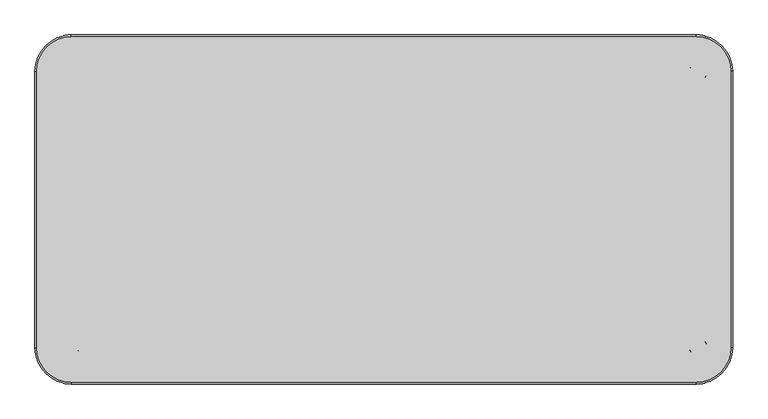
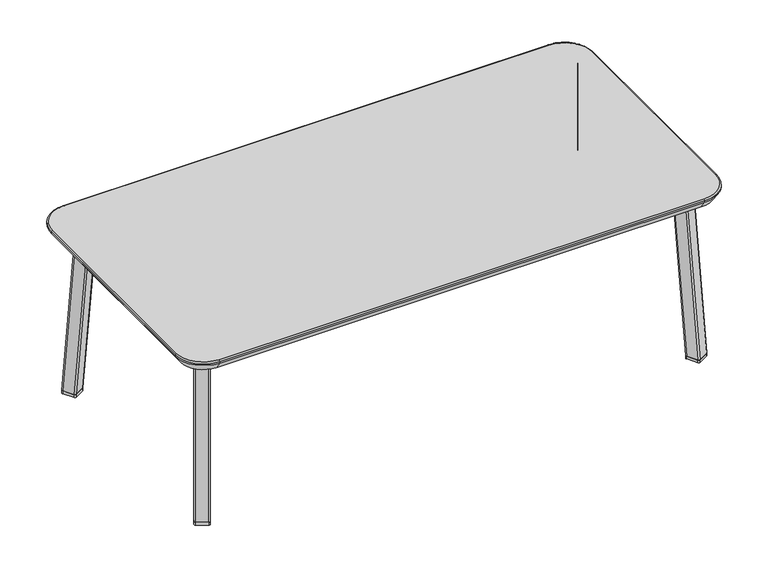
"""IFC4 building model written with IfcOpenShell, lengths in millimetres: furniture geometry, Stance_HC-Jensen-Occasional-Table : JETF244816-T."""

from ifc_helpers import new_model, si_unit, point, frame, frame_2d, origin, origin_with_axes, place, context, project, spatial, polyline, circle_curve, ellipse_curve, trimmed, segment, composite_curve, outline, extrude, source, transform, mapped, element, save
from ifc_brep_helpers import plane_surface, cylinder_surface, revolved_surface, extruded_surface, advanced_brep


def furniture_fc7ac903(model_context):
    return source(origin(), model_context, "Body", "SolidModel", [
        extrude(outline(composite_curve([segment(polyline([(575.681574, -260.4321033), (553.6845247, -273.1321056)]), True, "CONTINUOUS"), segment(trimmed(circle_curve(frame_2d((552.0970247, -270.382475)), 3.175), [point((553.6845247, -273.1321056))], [point((549.347394, -271.969975))], False, "CARTESIAN"), True, "CONTINUOUS"), segment(polyline([(549.347394, -271.969975), (536.5983038, -249.887903)]), True, "CONTINUOUS"), segment(trimmed(circle_curve(frame_2d((539.3479345, -248.300403)), 3.175), [point((536.5983038, -249.887903))], [point((537.7604345, -245.5507723))], False, "CARTESIAN"), True, "CONTINUOUS"), segment(polyline([(537.7604345, -245.5507723), (559.7574838, -232.85077)]), True, "CONTINUOUS"), segment(trimmed(circle_curve(frame_2d((561.3449838, -235.6004007)), 3.175), [point((559.7574838, -232.85077))], [point((564.0946144, -234.0129007))], False, "CARTESIAN"), True, "CONTINUOUS"), segment(polyline([(564.0946144, -234.0129007), (576.8437046, -256.0949726)]), True, "CONTINUOUS"), segment(trimmed(circle_curve(frame_2d((574.094074, -257.6824726)), 3.175), [point((576.8437046, -256.0949726))], [point((575.681574, -260.4321033))], False, "CARTESIAN"), True, "CONTINUOUS")], self_intersect=False)), origin_with_axes(), (0.0, 0.0, 1.0), 6.35),
        extrude(outline(composite_curve([segment(polyline([(553.6845247, 273.1321056), (575.681574, 260.4321033)]), True, "CONTINUOUS"), segment(trimmed(circle_curve(frame_2d((574.094074, 257.6824726)), 3.175), [point((575.681574, 260.4321033))], [point((576.8437046, 256.0949726))], False, "CARTESIAN"), True, "CONTINUOUS"), segment(polyline([(576.8437046, 256.0949726), (564.0946144, 234.0129007)]), True, "CONTINUOUS"), segment(trimmed(circle_curve(frame_2d((561.3449838, 235.6004007)), 3.175), [point((564.0946144, 234.0129007))], [point((559.7574838, 232.85077))], False, "CARTESIAN"), True, "CONTINUOUS"), segment(polyline([(559.7574838, 232.85077), (537.7604345, 245.5507723)]), True, "CONTINUOUS"), segment(trimmed(circle_curve(frame_2d((539.3479345, 248.300403)), 3.175), [point((537.7604345, 245.5507723))], [point((536.5983038, 249.887903))], False, "CARTESIAN"), True, "CONTINUOUS"), segment(polyline([(536.5983038, 249.887903), (549.347394, 271.969975)]), True, "CONTINUOUS"), segment(trimmed(circle_curve(frame_2d((552.0970247, 270.382475)), 3.175), [point((549.347394, 271.969975))], [point((553.6845247, 273.1321056))], False, "CARTESIAN"), True, "CONTINUOUS")], self_intersect=False)), origin_with_axes(), (0.0, 0.0, 1.0), 6.35),
        advanced_brep(
        [(522.9120024, -219.8325373, 380.5094413), (521.7498717, -224.1696679, 380.5094413), (534.4989619, -246.2517399, 380.5094413), (538.8360926, -247.4138706, 380.5094413), (560.8331418, -234.7138683, 380.5094413), (561.9952725, -230.3767376, 380.5094413), (549.2461823, -208.2946656, 380.5094413), (544.9090516, -207.132535, 380.5094413), (537.7604345, -245.5507723, 6.35), (559.7574838, -232.85077, 6.35), (564.0946144, -234.0129007, 6.35), (576.8437046, -256.0949726, 6.35), (575.681574, -260.4321033, 6.35), (553.6845247, -273.1321056, 6.35), (549.347394, -271.969975, 6.35), (536.5983038, -249.887903, 6.35)],
        [
            (0, 1, circle_curve(frame((524.4995024, -222.5821679, 380.5094413), z_axis=(0.0, 0.0, 1.0), x_axis=(-1.0, 0.0, 0.0)), 3.175)),
            (1, 2),
            (2, 3, circle_curve(frame((537.2485926, -244.6642399, 380.5094413), z_axis=(0.0, 0.0, 1.0), x_axis=(-1.0, 0.0, 0.0)), 3.175)),
            (3, 4),
            (4, 5, circle_curve(frame((559.2456418, -231.9642376, 380.5094413), z_axis=(0.0, 0.0, 1.0), x_axis=(-1.0, 0.0, 0.0)), 3.175)),
            (5, 6),
            (6, 7, circle_curve(frame((546.4965516, -209.8821656, 380.5094413), z_axis=(0.0, 0.0, 1.0), x_axis=(-1.0, 0.0, 0.0)), 3.175)),
            (7, 0),
            (8, 9),
            (9, 10, circle_curve(frame((561.3449838, -235.6004007, 6.35), z_axis=(0.0, 0.0, -1.0), x_axis=(-1.0, 0.0, 0.0)), 3.175)),
            (10, 11),
            (11, 12, circle_curve(frame((574.094074, -257.6824726, 6.35), z_axis=(0.0, 0.0, -1.0), x_axis=(-1.0, 0.0, 0.0)), 3.175)),
            (12, 13),
            (13, 14, circle_curve(frame((552.0970247, -270.382475, 6.35), z_axis=(0.0, 0.0, -1.0), x_axis=(-1.0, 0.0, 0.0)), 3.175)),
            (14, 15),
            (15, 8, circle_curve(frame((539.3479345, -248.300403, 6.35), z_axis=(0.0, 0.0, -1.0), x_axis=(-1.0, 0.0, 0.0)), 3.175)),
            (15, 1),
            (0, 8),
            (14, 2),
            (13, 3),
            (12, 4),
            (11, 5),
            (10, 6),
            (9, 7),
        ],
        [
            plane_surface(frame((541.8725721, -227.2732028, 380.5094413), z_axis=(0.0, 0.0, 1.0), x_axis=(0.8660254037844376, 0.5000000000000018, 0.0))),
            plane_surface(frame((556.7210042, -252.9914378, 6.35), z_axis=(0.0, 0.0, -1.0), x_axis=(0.8660254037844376, 0.5000000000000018, 0.0))),
            extruded_surface(trimmed(circle_curve(frame((524.4995024, -222.5821679, 380.5094413), z_axis=(0.0, 0.0, -1.0), x_axis=(-1.0, 0.0, 0.0)), 3.175), [point((521.7498717, -224.1696679, 380.5094413))], [point((522.9120024, -219.8325373, 380.5094413))], True, "CARTESIAN"), (14.848432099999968, -25.718235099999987, -374.15944129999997), 375.3361041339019),
            plane_surface(frame((542.9728489, -260.928939, 6.35), z_axis=(-0.8660254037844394, -0.49999999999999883, -5.114262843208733e-09), x_axis=(-0.49999999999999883, 0.8660254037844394, 0.0))),
            extruded_surface(trimmed(circle_curve(frame((537.2485926, -244.6642399, 380.5094413), z_axis=(0.0, 0.0, -1.0), x_axis=(-1.0, 0.0, 0.0)), 3.175), [point((538.8360926, -247.4138706, 380.5094413))], [point((534.4989619, -246.2517399, 380.5094413))], True, "CARTESIAN"), (14.848432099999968, -25.718235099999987, -374.15944129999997), 375.3361041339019),
            plane_surface(frame((564.6830493, -266.7821045, 6.35), z_axis=(0.49843252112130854, -0.8633104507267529, 0.0791207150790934), x_axis=(-0.8660254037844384, -0.5000000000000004, 0.0))),
            extruded_surface(trimmed(circle_curve(frame((559.2456418, -231.9642376, 380.5094413), z_axis=(0.0, 0.0, -1.0), x_axis=(-1.0, 0.0, 0.0)), 3.175), [point((561.9952725, -230.3767376, 380.5094413))], [point((560.8331418, -234.7138683, 380.5094413))], True, "CARTESIAN"), (14.848432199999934, -25.718234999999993, -374.15944129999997), 375.3361041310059),
            plane_surface(frame((570.4691595, -245.0539367, 6.35), z_axis=(0.8660254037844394, 0.4999999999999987, 5.114262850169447e-09), x_axis=(0.4999999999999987, -0.8660254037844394, 0.0))),
            extruded_surface(trimmed(circle_curve(frame((546.4965516, -209.8821656, 380.5094413), z_axis=(0.0, 0.0, -1.0), x_axis=(-1.0, 0.0, 0.0)), 3.175), [point((544.9090516, -207.132535, 380.5094413))], [point((549.2461823, -208.2946656, 380.5094413))], True, "CARTESIAN"), (14.848432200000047, -25.718235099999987, -374.15944129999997), 375.336104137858),
            plane_surface(frame((548.7589591, -239.2007712, 6.35), z_axis=(-0.49843252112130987, 0.8633104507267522, -0.07912071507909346), x_axis=(0.8660254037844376, 0.5000000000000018, 0.0))),
        ],
        [
            (0, [[1, 2, 3, 4, 5, 6, 7, 8]]),
            (1, [[9, 10, 11, 12, 13, 14, 15, 16]]),
            (2, [[17, -1, 18, -16]]),
            (3, [[19, -2, -17, -15]]),
            (4, [[20, -3, -19, -14]]),
            (5, [[21, -4, -20, -13]]),
            (6, [[22, -5, -21, -12]]),
            (7, [[23, -6, -22, -11]]),
            (8, [[24, -7, -23, -10]]),
            (9, [[-18, -8, -24, -9]]),
        ],
    ),
        extrude(outline(polyline([(581.7820372, 251.9484113), (436.2453703, 0.0), (581.7820372, -251.9484113), (543.3068508, -274.1733992), (384.9320372, 0.0), (543.3068508, 274.1733992), (581.7820372, 251.9484113)])), frame((0.0, 0.0, 380.5094413), z_axis=(0.0, 0.0, 1.0), x_axis=(1.0, 0.0, 0.0)), (0.0, 0.0, 1.0), 3.1749879),
        advanced_brep(
        [(522.9120024, 219.8325373, 380.5094413), (544.9090516, 207.132535, 380.5094413), (549.2461823, 208.2946656, 380.5094413), (561.9952725, 230.3767376, 380.5094413), (560.8331418, 234.7138683, 380.5094413), (538.8360926, 247.4138706, 380.5094413), (534.4989619, 246.2517399, 380.5094413), (521.7498717, 224.1696679, 380.5094413), (537.7604345, 245.5507723, 6.35), (536.5983038, 249.887903, 6.35), (549.347394, 271.969975, 6.35), (553.6845247, 273.1321056, 6.35), (575.681574, 260.4321033, 6.35), (576.8437046, 256.0949726, 6.35), (564.0946144, 234.0129007, 6.35), (559.7574838, 232.85077, 6.35)],
        [
            (0, 1),
            (1, 2, circle_curve(frame((546.4965516, 209.8821656, 380.5094413), z_axis=(0.0, 0.0, 1.0), x_axis=(-1.0, 0.0, 0.0)), 3.175)),
            (2, 3),
            (3, 4, circle_curve(frame((559.2456418, 231.9642376, 380.5094413), z_axis=(0.0, 0.0, 1.0), x_axis=(-1.0, 0.0, 0.0)), 3.175)),
            (4, 5),
            (5, 6, circle_curve(frame((537.2485926, 244.6642399, 380.5094413), z_axis=(0.0, 0.0, 1.0), x_axis=(-1.0, 0.0, 0.0)), 3.175)),
            (6, 7),
            (7, 0, circle_curve(frame((524.4995024, 222.5821679, 380.5094413), z_axis=(0.0, 0.0, 1.0), x_axis=(-1.0, 0.0, 0.0)), 3.175)),
            (8, 9, circle_curve(frame((539.3479345, 248.300403, 6.35), z_axis=(0.0, 0.0, -1.0), x_axis=(-1.0, 0.0, 0.0)), 3.175)),
            (9, 10),
            (10, 11, circle_curve(frame((552.0970247, 270.382475, 6.35), z_axis=(0.0, 0.0, -1.0), x_axis=(-1.0, 0.0, 0.0)), 3.175)),
            (11, 12),
            (12, 13, circle_curve(frame((574.094074, 257.6824726, 6.35), z_axis=(0.0, 0.0, -1.0), x_axis=(-1.0, 0.0, 0.0)), 3.175)),
            (13, 14),
            (14, 15, circle_curve(frame((561.3449838, 235.6004007, 6.35), z_axis=(0.0, 0.0, -1.0), x_axis=(-1.0, 0.0, 0.0)), 3.175)),
            (15, 8),
            (8, 0),
            (7, 9),
            (6, 10),
            (5, 11),
            (4, 12),
            (3, 13),
            (2, 14),
            (1, 15),
        ],
        [
            plane_surface(frame((541.8725721, 227.2732028, 380.5094413), z_axis=(0.0, 0.0, 1.0), x_axis=(-0.8660254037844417, 0.49999999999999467, 0.0))),
            plane_surface(frame((556.7210042, 252.9914378, 6.35), z_axis=(0.0, 0.0, -1.0), x_axis=(-0.8660254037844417, 0.49999999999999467, 0.0))),
            extruded_surface(trimmed(circle_curve(frame((524.4995024, 222.5821679, 380.5094413), z_axis=(0.0, 0.0, -1.0), x_axis=(-1.0, 0.0, 0.0)), 3.175), [point((522.9120024, 219.8325373, 380.5094413))], [point((521.7498717, 224.1696679, 380.5094413))], True, "CARTESIAN"), (14.848432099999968, 25.718235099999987, -374.15944129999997), 375.3361041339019),
            plane_surface(frame((542.9728489, 260.928939, 6.35), z_axis=(-0.8660254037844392, 0.49999999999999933, -5.114262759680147e-09), x_axis=(0.49999999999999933, 0.8660254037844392, 0.0))),
            extruded_surface(trimmed(circle_curve(frame((537.2485926, 244.6642399, 380.5094413), z_axis=(0.0, 0.0, -1.0), x_axis=(-1.0, 0.0, 0.0)), 3.175), [point((534.4989619, 246.2517399, 380.5094413))], [point((538.8360926, 247.4138706, 380.5094413))], True, "CARTESIAN"), (14.848432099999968, 25.718235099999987, -374.15944129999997), 375.3361041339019),
            plane_surface(frame((564.6830493, 266.7821045, 6.35), z_axis=(0.4984325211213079, 0.8633104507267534, 0.07912071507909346), x_axis=(0.8660254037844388, -0.49999999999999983, 0.0))),
            extruded_surface(trimmed(circle_curve(frame((559.2456418, 231.9642376, 380.5094413), z_axis=(0.0, 0.0, -1.0), x_axis=(-1.0, 0.0, 0.0)), 3.175), [point((560.8331418, 234.7138683, 380.5094413))], [point((561.9952725, 230.3767376, 380.5094413))], True, "CARTESIAN"), (14.848432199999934, 25.718234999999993, -374.15944129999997), 375.3361041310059),
            plane_surface(frame((570.4691595, 245.0539367, 6.35), z_axis=(0.8660254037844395, -0.49999999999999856, 5.1142629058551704e-09), x_axis=(-0.49999999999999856, -0.8660254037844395, 0.0))),
            extruded_surface(trimmed(circle_curve(frame((546.4965516, 209.8821656, 380.5094413), z_axis=(0.0, 0.0, -1.0), x_axis=(-1.0, 0.0, 0.0)), 3.175), [point((549.2461823, 208.2946656, 380.5094413))], [point((544.9090516, 207.132535, 380.5094413))], True, "CARTESIAN"), (14.848432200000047, 25.718235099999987, -374.15944129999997), 375.336104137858),
            plane_surface(frame((548.7589591, 239.2007712, 6.35), z_axis=(-0.49843252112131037, -0.863310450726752, -0.07912071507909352), x_axis=(-0.8660254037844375, 0.5000000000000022, 0.0))),
        ],
        [
            (0, [[1, 2, 3, 4, 5, 6, 7, 8]]),
            (1, [[9, 10, 11, 12, 13, 14, 15, 16]]),
            (2, [[17, -8, 18, -9]]),
            (3, [[-18, -7, 19, -10]]),
            (4, [[-19, -6, 20, -11]]),
            (5, [[-20, -5, 21, -12]]),
            (6, [[-21, -4, 22, -13]]),
            (7, [[-22, -3, 23, -14]]),
            (8, [[-23, -2, 24, -15]]),
            (9, [[-24, -1, -17, -16]]),
        ],
    ),
        extrude(outline(composite_curve([segment(trimmed(circle_curve(frame_2d((-572.690244, -257.6824726)), 3.175), [point((-574.277744, -260.4321033))], [point((-575.4398747, -256.0949726))], False, "CARTESIAN"), True, "CONTINUOUS"), segment(polyline([(-575.4398747, -256.0949726), (-562.6907845, -234.0129007)]), True, "CONTINUOUS"), segment(trimmed(circle_curve(frame_2d((-559.9411538, -235.6004007)), 3.175), [point((-562.6907845, -234.0129007))], [point((-558.3536538, -232.85077))], False, "CARTESIAN"), True, "CONTINUOUS"), segment(polyline([(-558.3536538, -232.85077), (-536.3566046, -245.5507723)]), True, "CONTINUOUS"), segment(trimmed(circle_curve(frame_2d((-537.9441046, -248.300403)), 3.175), [point((-536.3566046, -245.5507723))], [point((-535.1944739, -249.887903))], False, "CARTESIAN"), True, "CONTINUOUS"), segment(polyline([(-535.1944739, -249.887903), (-547.9435641, -271.969975)]), True, "CONTINUOUS"), segment(trimmed(circle_curve(frame_2d((-550.6931948, -270.382475)), 3.175), [point((-547.9435641, -271.969975))], [point((-552.2806948, -273.1321056))], False, "CARTESIAN"), True, "CONTINUOUS"), segment(polyline([(-552.2806948, -273.1321056), (-574.277744, -260.4321033)]), True, "CONTINUOUS")], self_intersect=False)), origin_with_axes(), (0.0, 0.0, 1.0), 6.35),
        extrude(outline(composite_curve([segment(trimmed(circle_curve(frame_2d((-550.6931948, 270.382475)), 3.175), [point((-552.2806948, 273.1321056))], [point((-547.9435641, 271.969975))], False, "CARTESIAN"), True, "CONTINUOUS"), segment(polyline([(-547.9435641, 271.969975), (-535.1944739, 249.887903)]), True, "CONTINUOUS"), segment(trimmed(circle_curve(frame_2d((-537.9441046, 248.300403)), 3.175), [point((-535.1944739, 249.887903))], [point((-536.3566046, 245.5507723))], False, "CARTESIAN"), True, "CONTINUOUS"), segment(polyline([(-536.3566046, 245.5507723), (-558.3536538, 232.85077)]), True, "CONTINUOUS"), segment(trimmed(circle_curve(frame_2d((-559.9411538, 235.6004007)), 3.175), [point((-558.3536538, 232.85077))], [point((-562.6907845, 234.0129007))], False, "CARTESIAN"), True, "CONTINUOUS"), segment(polyline([(-562.6907845, 234.0129007), (-575.4398747, 256.0949726)]), True, "CONTINUOUS"), segment(trimmed(circle_curve(frame_2d((-572.690244, 257.6824726)), 3.175), [point((-575.4398747, 256.0949726))], [point((-574.277744, 260.4321033))], False, "CARTESIAN"), True, "CONTINUOUS"), segment(polyline([(-574.277744, 260.4321033), (-552.2806948, 273.1321056)]), True, "CONTINUOUS")], self_intersect=False)), origin_with_axes(), (0.0, 0.0, 1.0), 6.35),
        advanced_brep(
        [(-521.5081724, -219.8325373, 380.5094413), (-543.5052217, -207.132535, 380.5094413), (-547.8423524, -208.2946656, 380.5094413), (-560.5914426, -230.3767376, 380.5094413), (-559.4293119, -234.7138683, 380.5094413), (-537.4322626, -247.4138706, 380.5094413), (-533.095132, -246.2517399, 380.5094413), (-520.3460418, -224.1696679, 380.5094413), (-536.3566046, -245.5507723, 6.35), (-535.1944739, -249.887903, 6.35), (-547.9435641, -271.969975, 6.35), (-552.2806948, -273.1321056, 6.35), (-574.277744, -260.4321033, 6.35), (-575.4398747, -256.0949726, 6.35), (-562.6907845, -234.0129007, 6.35), (-558.3536538, -232.85077, 6.35)],
        [
            (0, 1),
            (1, 2, circle_curve(frame((-545.0927217, -209.8821656, 380.5094413), z_axis=(0.0, 0.0, 1.0), x_axis=(1.0, 0.0, 0.0)), 3.175)),
            (2, 3),
            (3, 4, circle_curve(frame((-557.8418119, -231.9642376, 380.5094413), z_axis=(0.0, 0.0, 1.0), x_axis=(1.0, 0.0, 0.0)), 3.175)),
            (4, 5),
            (5, 6, circle_curve(frame((-535.8447626, -244.6642399, 380.5094413), z_axis=(0.0, 0.0, 1.0), x_axis=(1.0, 0.0, 0.0)), 3.175)),
            (6, 7),
            (7, 0, circle_curve(frame((-523.0956724, -222.5821679, 380.5094413), z_axis=(0.0, 0.0, 1.0), x_axis=(1.0, 0.0, 0.0)), 3.175)),
            (8, 9, circle_curve(frame((-537.9441046, -248.300403, 6.35), z_axis=(0.0, 0.0, -1.0), x_axis=(1.0, 0.0, 0.0)), 3.175)),
            (9, 10),
            (10, 11, circle_curve(frame((-550.6931948, -270.382475, 6.35), z_axis=(0.0, 0.0, -1.0), x_axis=(1.0, 0.0, 0.0)), 3.175)),
            (11, 12),
            (12, 13, circle_curve(frame((-572.690244, -257.6824726, 6.35), z_axis=(0.0, 0.0, -1.0), x_axis=(1.0, 0.0, 0.0)), 3.175)),
            (13, 14),
            (14, 15, circle_curve(frame((-559.9411538, -235.6004007, 6.35), z_axis=(0.0, 0.0, -1.0), x_axis=(1.0, 0.0, 0.0)), 3.175)),
            (15, 8),
            (8, 0),
            (7, 9),
            (6, 10),
            (5, 11),
            (4, 12),
            (3, 13),
            (2, 14),
            (1, 15),
        ],
        [
            plane_surface(frame((-540.4687422, -227.2732028, 380.5094413), z_axis=(0.0, 0.0, 1.0), x_axis=(-0.8660254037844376, 0.5000000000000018, 0.0))),
            plane_surface(frame((-555.3171743, -252.9914378, 6.35), z_axis=(0.0, 0.0, -1.0), x_axis=(-0.8660254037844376, 0.5000000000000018, 0.0))),
            extruded_surface(trimmed(circle_curve(frame((-537.9441046, -248.300403, 6.35), z_axis=(0.0, 0.0, 1.0), x_axis=(1.0, 0.0, 0.0)), 3.175), [point((-535.1944739, -249.887903, 6.35))], [point((-536.3566046, -245.5507723, 6.35))], True, "CARTESIAN"), (14.848432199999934, 25.718235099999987, 374.15944129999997), 375.336104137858),
            plane_surface(frame((-541.569019, -260.928939, 6.35), z_axis=(0.8660254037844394, -0.49999999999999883, -5.114262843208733e-09), x_axis=(0.49999999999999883, 0.8660254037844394, 0.0))),
            extruded_surface(trimmed(circle_curve(frame((-550.6931948, -270.382475, 6.35), z_axis=(0.0, 0.0, 1.0), x_axis=(1.0, 0.0, 0.0)), 3.175), [point((-552.2806948, -273.1321056, 6.35))], [point((-547.9435641, -271.969975, 6.35))], True, "CARTESIAN"), (14.848432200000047, 25.718235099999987, 374.15944129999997), 375.336104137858),
            plane_surface(frame((-563.2792194, -266.7821045, 6.35), z_axis=(-0.49843252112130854, -0.8633104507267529, 0.0791207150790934), x_axis=(0.8660254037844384, -0.5000000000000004, 0.0))),
            extruded_surface(trimmed(circle_curve(frame((-572.690244, -257.6824726, 6.35), z_axis=(0.0, 0.0, 1.0), x_axis=(1.0, 0.0, 0.0)), 3.175), [point((-575.4398747, -256.0949726, 6.35))], [point((-574.277744, -260.4321033, 6.35))], True, "CARTESIAN"), (14.848432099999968, 25.718234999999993, 374.15944129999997), 375.3361041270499),
            plane_surface(frame((-569.0653296, -245.0539367, 6.35), z_axis=(-0.8660254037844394, 0.4999999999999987, 5.114262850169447e-09), x_axis=(-0.4999999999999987, -0.8660254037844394, 0.0))),
            extruded_surface(trimmed(circle_curve(frame((-559.9411538, -235.6004007, 6.35), z_axis=(0.0, 0.0, 1.0), x_axis=(1.0, 0.0, 0.0)), 3.175), [point((-558.3536538, -232.85077, 6.35))], [point((-562.6907845, -234.0129007, 6.35))], True, "CARTESIAN"), (14.848432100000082, 25.718235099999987, 374.15944129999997), 375.3361041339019),
            plane_surface(frame((-547.3551292, -239.2007712, 6.35), z_axis=(0.49843252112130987, 0.8633104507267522, -0.07912071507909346), x_axis=(-0.8660254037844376, 0.5000000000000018, 0.0))),
        ],
        [
            (0, [[1, 2, 3, 4, 5, 6, 7, 8]]),
            (1, [[9, 10, 11, 12, 13, 14, 15, 16]]),
            (2, [[-9, 17, -8, 18]]),
            (3, [[-10, -18, -7, 19]]),
            (4, [[-11, -19, -6, 20]]),
            (5, [[-12, -20, -5, 21]]),
            (6, [[-13, -21, -4, 22]]),
            (7, [[-14, -22, -3, 23]]),
            (8, [[-15, -23, -2, 24]]),
            (9, [[-16, -24, -1, -17]]),
        ],
    ),
        extrude(outline(polyline([(-580.3782073, 251.9484113), (-541.9030209, 274.1733992), (-383.5282073, 0.0), (-541.9030209, -274.1733992), (-580.3782073, -251.9484113), (-434.8415404, 0.0), (-580.3782073, 251.9484113)])), frame((0.0, 0.0, 380.5094413), z_axis=(0.0, 0.0, 1.0), x_axis=(1.0, 0.0, 0.0)), (0.0, 0.0, 1.0), 3.1749879),
        advanced_brep(
        [(-521.5081724, 219.8325373, 380.5094413), (-520.3460418, 224.1696679, 380.5094413), (-533.095132, 246.2517399, 380.5094413), (-537.4322626, 247.4138706, 380.5094413), (-559.4293119, 234.7138683, 380.5094413), (-560.5914426, 230.3767376, 380.5094413), (-547.8423524, 208.2946656, 380.5094413), (-543.5052217, 207.132535, 380.5094413), (-536.3566046, 245.5507723, 6.35), (-558.3536538, 232.85077, 6.35), (-562.6907845, 234.0129007, 6.35), (-575.4398747, 256.0949726, 6.35), (-574.277744, 260.4321033, 6.35), (-552.2806948, 273.1321056, 6.35), (-547.9435641, 271.969975, 6.35), (-535.1944739, 249.887903, 6.35)],
        [
            (0, 1, circle_curve(frame((-523.0956724, 222.5821679, 380.5094413), z_axis=(0.0, 0.0, 1.0), x_axis=(1.0, 0.0, 0.0)), 3.175)),
            (1, 2),
            (2, 3, circle_curve(frame((-535.8447626, 244.6642399, 380.5094413), z_axis=(0.0, 0.0, 1.0), x_axis=(1.0, 0.0, 0.0)), 3.175)),
            (3, 4),
            (4, 5, circle_curve(frame((-557.8418119, 231.9642376, 380.5094413), z_axis=(0.0, 0.0, 1.0), x_axis=(1.0, 0.0, 0.0)), 3.175)),
            (5, 6),
            (6, 7, circle_curve(frame((-545.0927217, 209.8821656, 380.5094413), z_axis=(0.0, 0.0, 1.0), x_axis=(1.0, 0.0, 0.0)), 3.175)),
            (7, 0),
            (8, 9),
            (9, 10, circle_curve(frame((-559.9411538, 235.6004007, 6.35), z_axis=(0.0, 0.0, -1.0), x_axis=(1.0, 0.0, 0.0)), 3.175)),
            (10, 11),
            (11, 12, circle_curve(frame((-572.690244, 257.6824726, 6.35), z_axis=(0.0, 0.0, -1.0), x_axis=(1.0, 0.0, 0.0)), 3.175)),
            (12, 13),
            (13, 14, circle_curve(frame((-550.6931948, 270.382475, 6.35), z_axis=(0.0, 0.0, -1.0), x_axis=(1.0, 0.0, 0.0)), 3.175)),
            (14, 15),
            (15, 8, circle_curve(frame((-537.9441046, 248.300403, 6.35), z_axis=(0.0, 0.0, -1.0), x_axis=(1.0, 0.0, 0.0)), 3.175)),
            (15, 1),
            (0, 8),
            (14, 2),
            (13, 3),
            (12, 4),
            (11, 5),
            (10, 6),
            (9, 7),
        ],
        [
            plane_surface(frame((-540.4687422, 227.2732028, 380.5094413), z_axis=(0.0, 0.0, 1.0), x_axis=(0.8660254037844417, 0.49999999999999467, 0.0))),
            plane_surface(frame((-555.3171743, 252.9914378, 6.35), z_axis=(0.0, 0.0, -1.0), x_axis=(0.8660254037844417, 0.49999999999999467, 0.0))),
            extruded_surface(trimmed(circle_curve(frame((-537.9441046, 248.300403, 6.35), z_axis=(0.0, 0.0, 1.0), x_axis=(1.0, 0.0, 0.0)), 3.175), [point((-536.3566046, 245.5507723, 6.35))], [point((-535.1944739, 249.887903, 6.35))], True, "CARTESIAN"), (14.848432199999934, -25.718235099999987, 374.15944129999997), 375.336104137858),
            plane_surface(frame((-541.569019, 260.928939, 6.35), z_axis=(0.8660254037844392, 0.49999999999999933, -5.114262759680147e-09), x_axis=(-0.49999999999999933, 0.8660254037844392, 0.0))),
            extruded_surface(trimmed(circle_curve(frame((-550.6931948, 270.382475, 6.35), z_axis=(0.0, 0.0, 1.0), x_axis=(1.0, 0.0, 0.0)), 3.175), [point((-547.9435641, 271.969975, 6.35))], [point((-552.2806948, 273.1321056, 6.35))], True, "CARTESIAN"), (14.848432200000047, -25.718235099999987, 374.15944129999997), 375.336104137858),
            plane_surface(frame((-563.2792194, 266.7821045, 6.35), z_axis=(-0.4984325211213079, 0.8633104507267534, 0.07912071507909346), x_axis=(-0.8660254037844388, -0.49999999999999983, 0.0))),
            extruded_surface(trimmed(circle_curve(frame((-572.690244, 257.6824726, 6.35), z_axis=(0.0, 0.0, 1.0), x_axis=(1.0, 0.0, 0.0)), 3.175), [point((-574.277744, 260.4321033, 6.35))], [point((-575.4398747, 256.0949726, 6.35))], True, "CARTESIAN"), (14.848432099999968, -25.718234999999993, 374.15944129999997), 375.3361041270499),
            plane_surface(frame((-569.0653296, 245.0539367, 6.35), z_axis=(-0.8660254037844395, -0.49999999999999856, 5.1142629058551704e-09), x_axis=(0.49999999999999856, -0.8660254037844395, 0.0))),
            extruded_surface(trimmed(circle_curve(frame((-559.9411538, 235.6004007, 6.35), z_axis=(0.0, 0.0, 1.0), x_axis=(1.0, 0.0, 0.0)), 3.175), [point((-562.6907845, 234.0129007, 6.35))], [point((-558.3536538, 232.85077, 6.35))], True, "CARTESIAN"), (14.848432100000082, -25.718235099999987, 374.15944129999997), 375.3361041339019),
            plane_surface(frame((-547.3551292, 239.2007712, 6.35), z_axis=(0.49843252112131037, -0.863310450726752, -0.07912071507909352), x_axis=(0.8660254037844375, 0.5000000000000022, 0.0))),
        ],
        [
            (0, [[1, 2, 3, 4, 5, 6, 7, 8]]),
            (1, [[9, 10, 11, 12, 13, 14, 15, 16]]),
            (2, [[-16, 17, -1, 18]]),
            (3, [[-15, 19, -2, -17]]),
            (4, [[-14, 20, -3, -19]]),
            (5, [[-13, 21, -4, -20]]),
            (6, [[-12, 22, -5, -21]]),
            (7, [[-11, 23, -6, -22]]),
            (8, [[-10, 24, -7, -23]]),
            (9, [[-9, -18, -8, -24]]),
        ],
    ),
        advanced_brep(
        [(609.6, -241.3, 405.9094413), (546.1, -304.8, 405.9094413), (546.1, -304.8, 402.7343928), (609.6, -241.3, 402.7343928), (546.1, -291.4610718, 383.6844292), (596.2610718, -241.3, 383.6844292), (609.6, 241.3, 402.7343928), (609.6, 241.3, 405.9094413), (596.2610718, 241.3, 383.6844292), (546.1, 304.8, 402.7343928), (546.1, 304.8, 405.9094413), (546.1, 291.4610718, 383.6844292), (-546.1, 304.8, 402.7343928), (-546.1, 304.8, 405.9094413), (-546.1, 291.4610718, 383.6844292), (-609.6, 241.3, 402.7343928), (-609.6, 241.3, 405.9094413), (-596.2610718, 241.3, 383.6844292), (-609.6, -241.3, 402.7343928), (-609.6, -241.3, 405.9094413), (-596.2610718, -241.3, 383.6844292), (-546.1, -304.8, 402.7343928), (-546.1, -304.8, 405.9094413), (-546.1, -291.4610718, 383.6844292), (-606.425, 241.3, 409.0844413), (-606.425, -241.3, 409.0844413), (-546.1, -301.625, 409.0844413), (546.1, -301.625, 409.0844413), (606.425, -241.3, 409.0844413), (606.425, 241.3, 409.0844413), (546.1, 301.625, 409.0844413), (-546.1, 301.625, 409.0844413)],
        [
            (0, 1, circle_curve(frame((546.1, -241.3, 405.9094413), z_axis=(0.0, 0.0, -1.0), x_axis=(0.0, -1.0, 0.0)), 63.5)),
            (1, 2),
            (2, 3, circle_curve(frame((546.1, -241.3, 402.7343928), z_axis=(0.0, 0.0, 1.0), x_axis=(0.0, -1.0, 0.0)), 63.5)),
            (3, 0),
            (2, 4),
            (4, 5, circle_curve(frame((546.1, -241.3, 383.6844292), z_axis=(0.0, 0.0, 1.0), x_axis=(0.0, -1.0, 0.0)), 50.1610718)),
            (5, 3),
            (3, 6),
            (6, 7),
            (7, 0),
            (5, 8),
            (8, 6),
            (6, 9, circle_curve(frame((546.1, 241.3, 402.7343928), z_axis=(0.0, 0.0, 1.0), x_axis=(1.0, 0.0, 0.0)), 63.5)),
            (9, 10),
            (10, 7, circle_curve(frame((546.1, 241.3, 405.9094413), z_axis=(0.0, 0.0, -1.0), x_axis=(1.0, 0.0, 0.0)), 63.5)),
            (8, 11, circle_curve(frame((546.1, 241.3, 383.6844292), z_axis=(0.0, 0.0, 1.0), x_axis=(1.0, 0.0, 0.0)), 50.1610718)),
            (11, 9),
            (9, 12),
            (12, 13),
            (13, 10),
            (11, 14),
            (14, 12),
            (12, 15, circle_curve(frame((-546.1, 241.3, 402.7343928), z_axis=(0.0, 0.0, 1.0), x_axis=(0.0, 1.0, 0.0)), 63.5)),
            (15, 16),
            (16, 13, circle_curve(frame((-546.1, 241.3, 405.9094413), z_axis=(0.0, 0.0, -1.0), x_axis=(0.0, 1.0, 0.0)), 63.5)),
            (14, 17, circle_curve(frame((-546.1, 241.3, 383.6844292), z_axis=(0.0, 0.0, 1.0), x_axis=(0.0, 1.0, 0.0)), 50.1610718)),
            (17, 15),
            (15, 18),
            (18, 19),
            (19, 16),
            (17, 20),
            (20, 18),
            (18, 21, circle_curve(frame((-546.1, -241.3, 402.7343928), z_axis=(0.0, 0.0, 1.0), x_axis=(-1.0, 0.0, 0.0)), 63.5)),
            (21, 22),
            (22, 19, circle_curve(frame((-546.1, -241.3, 405.9094413), z_axis=(0.0, 0.0, -1.0), x_axis=(-1.0, 0.0, 0.0)), 63.5)),
            (20, 23, circle_curve(frame((-546.1, -241.3, 383.6844292), z_axis=(0.0, 0.0, 1.0), x_axis=(-1.0, 0.0, 0.0)), 50.1610718)),
            (23, 21),
            (1, 22),
            (21, 2),
            (24, 25),
            (25, 26, circle_curve(frame((-546.1, -241.3, 409.0844413), z_axis=(0.0, 0.0, 1.0), x_axis=(-1.0, 0.0, 0.0)), 60.325)),
            (26, 27),
            (27, 28, circle_curve(frame((546.1, -241.3, 409.0844413), z_axis=(0.0, 0.0, 1.0), x_axis=(0.0, -1.0, 0.0)), 60.325)),
            (28, 29),
            (29, 30, circle_curve(frame((546.1, 241.3, 409.0844413), z_axis=(0.0, 0.0, 1.0), x_axis=(1.0, 0.0, 0.0)), 60.325)),
            (30, 31),
            (31, 24, circle_curve(frame((-546.1, 241.3, 409.0844413), z_axis=(0.0, 0.0, 1.0), x_axis=(0.0, 1.0, 0.0)), 60.325)),
            (4, 23),
            (0, 28, circle_curve(frame((606.425, -241.3, 405.9094413), z_axis=(0.0, -1.0, 0.0), x_axis=(-1.0, 0.0, 0.0)), 3.175)),
            (27, 1, circle_curve(frame((546.1, -301.625, 405.9094413), z_axis=(1.0, 0.0, 0.0), x_axis=(0.0, 1.0, 0.0)), 3.175)),
            (7, 29, circle_curve(frame((606.425, 241.3, 405.9094413), z_axis=(0.0, -1.0, 0.0), x_axis=(-1.0, 0.0, 0.0)), 3.175)),
            (10, 30, circle_curve(frame((546.1, 301.625, 405.9094413), z_axis=(1.0, 0.0, 0.0), x_axis=(0.0, -1.0, 0.0)), 3.175)),
            (13, 31, circle_curve(frame((-546.1, 301.625, 405.9094413), z_axis=(1.0, 0.0, 0.0), x_axis=(0.0, -1.0, 0.0)), 3.175)),
            (16, 24, circle_curve(frame((-606.425, 241.3, 405.9094413), z_axis=(0.0, 1.0, 0.0), x_axis=(1.0, 0.0, 0.0)), 3.175)),
            (19, 25, circle_curve(frame((-606.425, -241.3, 405.9094413), z_axis=(0.0, 1.0, 0.0), x_axis=(1.0, 0.0, 0.0)), 3.175)),
            (22, 26, circle_curve(frame((-546.1, -301.625, 405.9094413), z_axis=(-1.0, 0.0, 0.0), x_axis=(0.0, 1.0, 0.0)), 3.175)),
        ],
        [
            cylinder_surface(frame((546.1, -241.3, 409.0844413), z_axis=(0.0, 0.0, 1.0), x_axis=(0.0, -1.0, 0.0)), 63.5),
            revolved_surface(polyline([(546.1, -291.4610718, 383.6844292), (546.1, -304.8, 402.7343928)]), (546.1, -241.3, 409.0844413), (0.0, 0.0, 1.0)),
            plane_surface(frame((609.6, -241.3, 402.7343928), z_axis=(1.0, 0.0, 0.0), x_axis=(0.0, 1.0, 0.0))),
            plane_surface(frame((596.2610718, -241.3, 383.6844292), z_axis=(0.8191520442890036, 0.0, -0.5735764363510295), x_axis=(0.0, 1.0, 0.0))),
            cylinder_surface(frame((546.1, 241.3, 409.0844413), z_axis=(0.0, 0.0, 1.0), x_axis=(1.0, 0.0, 0.0)), 63.5),
            revolved_surface(polyline([(596.2610718, 241.3, 383.6844292), (609.6, 241.3, 402.7343928)]), (546.1, 241.3, 409.0844413), (0.0, 0.0, 1.0)),
            plane_surface(frame((546.1, 304.8, 402.7343928), z_axis=(0.0, 1.0, 0.0), x_axis=(-1.0, 0.0, 0.0))),
            plane_surface(frame((546.1, 291.4610718, 383.6844292), z_axis=(0.0, 0.8191520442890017, -0.5735764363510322), x_axis=(-1.0, 0.0, 0.0))),
            cylinder_surface(frame((-546.1, 241.3, 409.0844413), z_axis=(0.0, 0.0, 1.0), x_axis=(0.0, 1.0, 0.0)), 63.5),
            revolved_surface(polyline([(-546.1, 291.4610718, 383.6844292), (-546.1, 304.8, 402.7343928)]), (-546.1, 241.3, 409.0844413), (0.0, 0.0, 1.0)),
            plane_surface(frame((-609.6, 241.3, 402.7343928), z_axis=(-1.0, 0.0, 0.0), x_axis=(0.0, -1.0, 0.0))),
            plane_surface(frame((-596.2610718, 241.3, 383.6844292), z_axis=(-0.8191520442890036, 0.0, -0.5735764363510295), x_axis=(0.0, -1.0, 0.0))),
            cylinder_surface(frame((-546.1, -241.3, 409.0844413), z_axis=(0.0, 0.0, 1.0), x_axis=(-1.0, 0.0, 0.0)), 63.5),
            revolved_surface(polyline([(-596.2610718, -241.3, 383.6844292), (-609.6, -241.3, 402.7343928)]), (-546.1, -241.3, 409.0844413), (0.0, 0.0, 1.0)),
            plane_surface(frame((-546.1, -304.8, 402.7343928), z_axis=(0.0, -1.0, 0.0), x_axis=(1.0, 0.0, 0.0))),
            plane_surface(frame((-546.1, -301.625, 409.0844413), z_axis=(0.0, 0.0, 1.0), x_axis=(1.0, 0.0, 0.0))),
            plane_surface(frame((-546.1, -279.4000061, 383.6844292), z_axis=(0.0, 0.0, -1.0), x_axis=(1.0, 0.0, 0.0))),
            plane_surface(frame((-546.1, -291.4610718, 383.6844292), z_axis=(0.0, -0.8191520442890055, -0.5735764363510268), x_axis=(1.0, 0.0, 0.0))),
            revolved_surface(trimmed(ellipse_curve(frame((546.1, -301.625, 405.9094413), z_axis=(-1.0, 0.0, 0.0), x_axis=(0.0, 1.0, 0.0)), 3.175, 3.175), [point((546.1, -304.8, 405.9094413))], [point((546.1, -301.625, 409.0844413))], True, "CARTESIAN"), (546.1, -241.3, 409.0844413), (0.0, 0.0, 1.0)),
            cylinder_surface(frame((606.425, -241.3, 405.9094413), z_axis=(0.0, -1.0, 0.0), x_axis=(-1.0, 0.0, 0.0)), 3.175),
            revolved_surface(trimmed(ellipse_curve(frame((606.425, 241.3, 405.9094413), z_axis=(0.0, -1.0, 0.0), x_axis=(-1.0, 0.0, 0.0)), 3.175, 3.175), [point((609.6, 241.3, 405.9094413))], [point((606.425, 241.3, 409.0844413))], True, "CARTESIAN"), (546.1, 241.3, 409.0844413), (0.0, 0.0, 1.0)),
            cylinder_surface(frame((546.1, 301.625, 405.9094413), z_axis=(1.0, 0.0, 0.0), x_axis=(0.0, -1.0, 0.0)), 3.175),
            revolved_surface(trimmed(ellipse_curve(frame((-546.1, 301.625, 405.9094413), z_axis=(1.0, 0.0, 0.0), x_axis=(0.0, -1.0, 0.0)), 3.175, 3.175), [point((-546.1, 304.8, 405.9094413))], [point((-546.1, 301.625, 409.0844413))], True, "CARTESIAN"), (-546.1, 241.3, 409.0844413), (0.0, 0.0, 1.0)),
            cylinder_surface(frame((-606.425, 241.3, 405.9094413), z_axis=(0.0, 1.0, 0.0), x_axis=(1.0, 0.0, 0.0)), 3.175),
            revolved_surface(trimmed(ellipse_curve(frame((-606.425, -241.3, 405.9094413), z_axis=(0.0, 1.0, 0.0), x_axis=(1.0, 0.0, 0.0)), 3.175, 3.175), [point((-609.6, -241.3, 405.9094413))], [point((-606.425, -241.3, 409.0844413))], True, "CARTESIAN"), (-546.1, -241.3, 409.0844413), (0.0, 0.0, 1.0)),
            cylinder_surface(frame((-546.1, -301.625, 405.9094413), z_axis=(-1.0, 0.0, 0.0), x_axis=(0.0, 1.0, 0.0)), 3.175),
        ],
        [
            (0, [[1, 2, 3, 4]]),
            (1, [[-3, 5, 6, 7]]),
            (2, [[-4, 8, 9, 10]]),
            (3, [[-7, 11, 12, -8]]),
            (4, [[-9, 13, 14, 15]]),
            (5, [[-12, 16, 17, -13]]),
            (6, [[-14, 18, 19, 20]]),
            (7, [[-17, 21, 22, -18]]),
            (8, [[-19, 23, 24, 25]]),
            (9, [[-22, 26, 27, -23]]),
            (10, [[-24, 28, 29, 30]]),
            (11, [[-27, 31, 32, -28]]),
            (12, [[-29, 33, 34, 35]]),
            (13, [[-32, 36, 37, -33]]),
            (14, [[-2, 38, -34, 39]]),
            (15, [[40, 41, 42, 43, 44, 45, 46, 47]]),
            (16, [[-6, 48, -36, -31, -26, -21, -16, -11]]),
            (17, [[-5, -39, -37, -48]]),
            (18, [[-1, 49, -43, 50]]),
            (19, [[-10, 51, -44, -49]]),
            (20, [[-15, 52, -45, -51]]),
            (21, [[-20, 53, -46, -52]]),
            (22, [[-25, 54, -47, -53]]),
            (23, [[-30, 55, -40, -54]]),
            (24, [[-35, 56, -41, -55]]),
            (25, [[-38, -50, -42, -56]]),
        ],
    ),
    ])


if __name__ == "__main__":
    model = new_model("IFC4")
    model_context = context("Model", 3, world=origin())
    ifc_project = project(units=[si_unit("LENGTHUNIT", "METRE", prefix="MILLI")], contexts=[model_context])
    site = spatial("IfcSite", under=ifc_project)
    building = spatial("IfcBuilding", under=site)
    placement = place(None, origin())
    furniture_shape = furniture_fc7ac903(model_context)
    element("IfcFurniture", 1, ObjectType="Stance_HC-Jensen-Occasional-Table : JETF244816-T", at=placement, inside=building, context=model_context, shape_type="MappedRepresentation", body=[
        mapped(furniture_shape, transform((0.0, 0.0, 0.0), x_axis=(1.0, 0.0, 0.0), y_axis=(0.0, 1.0, 0.0), z_axis=(0.0, 0.0, 1.0))),
    ])
    save(model, "model.ifc")
